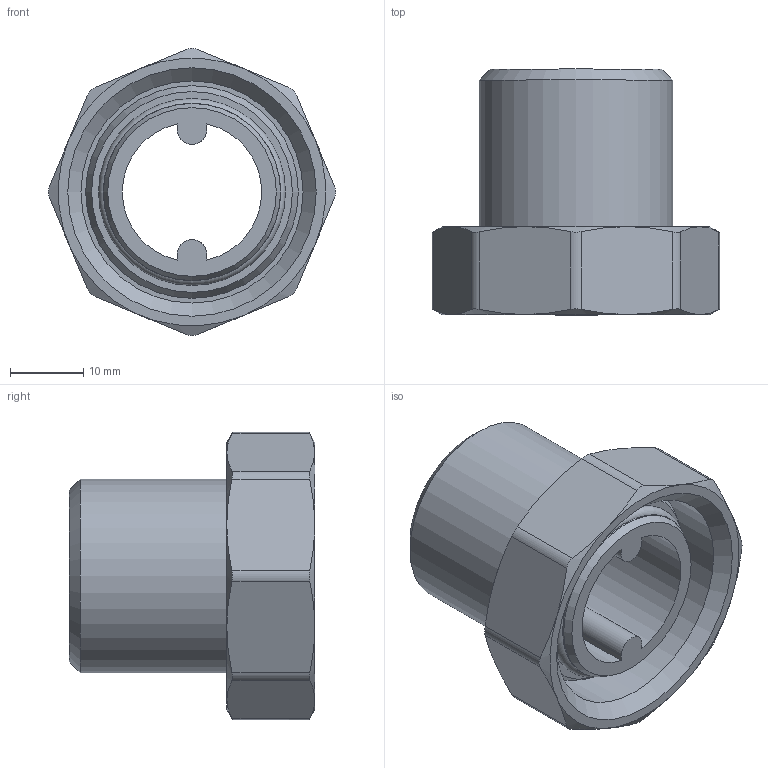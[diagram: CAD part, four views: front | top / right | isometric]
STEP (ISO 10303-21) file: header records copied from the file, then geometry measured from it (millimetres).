
FILE_DESCRIPTION(('STEP AP203'), '1');
FILE_NAME('覆.302612.024.000 捘 - VTr.015.N.05', '2024-06-20T10:36:43', ('Boss'), (''), 'C3D Converter', 'C3D Toolkit', '');
FILE_SCHEMA(('CONFIG_CONTROL_DESIGN'));
Length unit declared in the file: millimetre
Products named in the file (1): ВР.302612.024.000 СБ
Bounding box: 39.18 x 33.5 x 39.18 mm (x, y, z)
Volume: 12635.1 mm3; surface area: 8867.8 mm2
Topology: 1 solids, 1 shells, 175 faces, 477 edges, 311 vertices
Faces by surface type: extrusion 71, plane 67, cylinder 19, cone 14, torus 4
Full cylindrical faces by diameter (mm): 20 x1, 22 x2, 26.441 x1, 27 x1, 29 x1, 30.292 x1
Entity records: 6619 total; most frequent: CARTESIAN_POINT 2698, ORIENTED_EDGE 880, DIRECTION 568, EDGE_CURVE 440, VERTEX_POINT 302, VECTOR 290, B_SPLINE_CURVE_WITH_KNOTS 255, LINE 219
